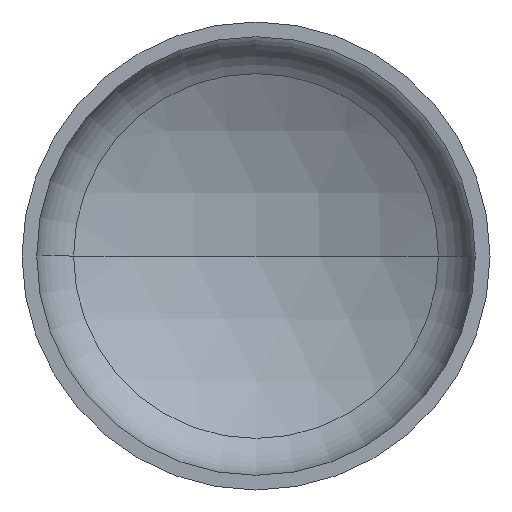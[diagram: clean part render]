
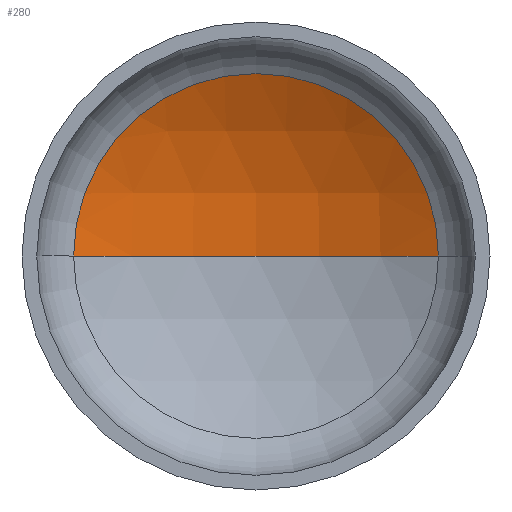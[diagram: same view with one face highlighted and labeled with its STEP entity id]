
A CAD part, front view. The second image highlights one B-rep face of the part: STEP entity #280.
In plain terms, the highlighted spherical face has radius 2240 mm.
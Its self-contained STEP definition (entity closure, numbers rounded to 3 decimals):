
#13 = AXIS2_PLACEMENT_3D ( 'NONE', #279, #218, #41 ) ;
#16 = AXIS2_PLACEMENT_3D ( 'NONE', #113, #109, #110 ) ;
#21 = AXIS2_PLACEMENT_3D ( 'NONE', #135, #128, #37 ) ;
#26 = AXIS2_PLACEMENT_3D ( 'NONE', #130, #131, #365 ) ;
#37 = DIRECTION ( 'NONE',  ( -1., 0., 0. ) ) ;
#41 = DIRECTION ( 'NONE',  ( 1., 0., 0. ) ) ;
#54 = VERTEX_POINT ( 'NONE', #235 ) ;
#109 = DIRECTION ( 'NONE',  ( 0., 0., -1. ) ) ;
#110 = DIRECTION ( 'NONE',  ( -1., 0., 0. ) ) ;
#113 = CARTESIAN_POINT ( 'NONE',  ( 0., -1480.562, 0. ) ) ;
#117 = FACE_OUTER_BOUND ( 'NONE', #255, .T. ) ;
#128 = DIRECTION ( 'NONE',  ( 0., 0., -1. ) ) ;
#130 = CARTESIAN_POINT ( 'NONE',  ( 0., 475.493, 0. ) ) ;
#131 = DIRECTION ( 'NONE',  ( 0., -1., 0. ) ) ;
#135 = CARTESIAN_POINT ( 'NONE',  ( 0., -1480.562, 0. ) ) ;
#154 = CARTESIAN_POINT ( 'NONE',  ( -1091.536, 475.493, 0. ) ) ;
#180 = CIRCLE ( 'NONE', #16, 2240. ) ;
#218 = DIRECTION ( 'NONE',  ( 0., 0., 1. ) ) ;
#235 = CARTESIAN_POINT ( 'NONE',  ( 1091.536, 475.493, 0. ) ) ;
#250 = SPHERICAL_SURFACE ( 'NONE', #21, 2240. ) ;
#251 = ORIENTED_EDGE ( 'NONE', *, *, #321, .F. ) ;
#255 = EDGE_LOOP ( 'NONE', ( #251, #284, #389 ) ) ;
#264 = VERTEX_POINT ( 'NONE', #154 ) ;
#270 = CIRCLE ( 'NONE', #26, 1091.536 ) ;
#279 = CARTESIAN_POINT ( 'NONE',  ( 0., -1480.562, 0. ) ) ;
#280 = ADVANCED_FACE ( 'NONE', ( #117 ), #250, .F. ) ;
#284 = ORIENTED_EDGE ( 'NONE', *, *, #318, .T. ) ;
#285 = CARTESIAN_POINT ( 'NONE',  ( 0., 759.438, 0. ) ) ;
#297 = EDGE_CURVE ( 'NONE', #54, #264, #270, .T. ) ;
#318 = EDGE_CURVE ( 'NONE', #380, #54, #180, .T. ) ;
#321 = EDGE_CURVE ( 'NONE', #380, #264, #330, .T. ) ;
#330 = CIRCLE ( 'NONE', #13, 2240. ) ;
#365 = DIRECTION ( 'NONE',  ( 1., 0., 0. ) ) ;
#380 = VERTEX_POINT ( 'NONE', #285 ) ;
#389 = ORIENTED_EDGE ( 'NONE', *, *, #297, .T. ) ;
